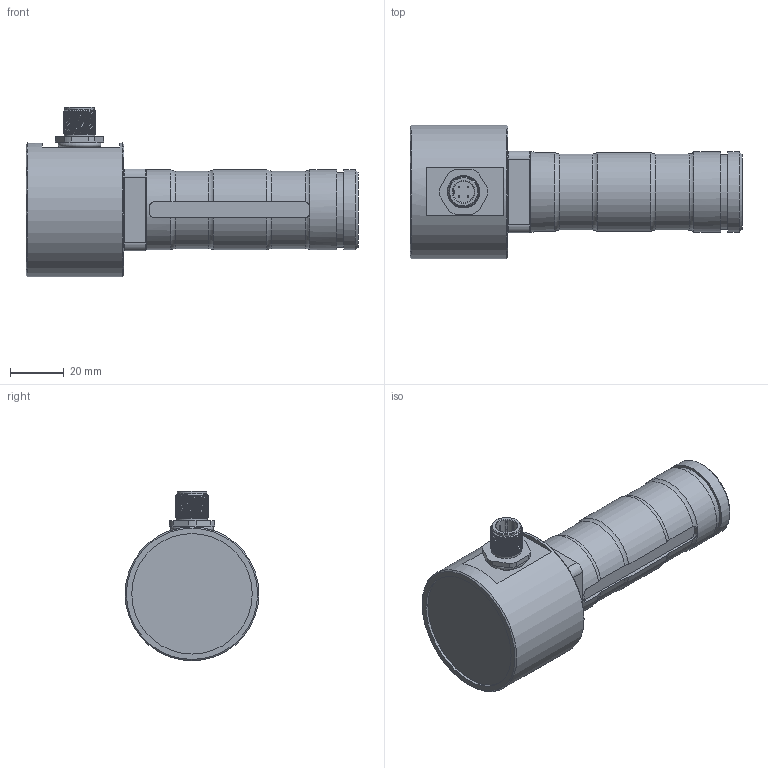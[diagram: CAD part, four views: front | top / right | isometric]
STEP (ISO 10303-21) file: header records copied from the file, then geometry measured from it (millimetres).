
FILE_DESCRIPTION(/* description */ ('Alibre Inc.'),/* implementation_level */ '2;1');
FILE_NAME(/* name */ 'export-1222A8B0-2DB0-45C9-8113-28A234116F55',/* time_stamp */ '2019-05-16T07:50:47+02:00',/* author */ (''),/* organization */ (''),/* preprocessor_version */ 'ST-DEVELOPER v17',/* originating_system */ 'Alibre',/* authorisation */ '');
FILE_SCHEMA (('CONFIG_CONTROL_DESIGN'));
Length unit declared in the file: centimetre
Products named in the file (3): ID_1
Bounding box: 124 x 50 x 63.32 mm (x, y, z)
Volume: 190562.3 mm3; surface area: 93964.5 mm2
Topology: 6 solids, 7 shells, 185 faces, 420 edges, 260 vertices
Faces by surface type: plane 78, cylinder 57, bspline 23, cone 17, torus 10
Full cylindrical faces by diameter (mm): 0.5 x8, 8 x2, 10 x2, 11 x1, 11.5 x1, 13 x2, 14.5 x1, 27.9 x1, 30 x3, 45 x1, 50 x1
Entity records: 15343 total; most frequent: CARTESIAN_POINT 11683, ORIENTED_EDGE 758, DIRECTION 512, EDGE_CURVE 372, VERTEX_POINT 244, EDGE_LOOP 240, FACE_BOUND 240, AXIS2_PLACEMENT_3D 221
